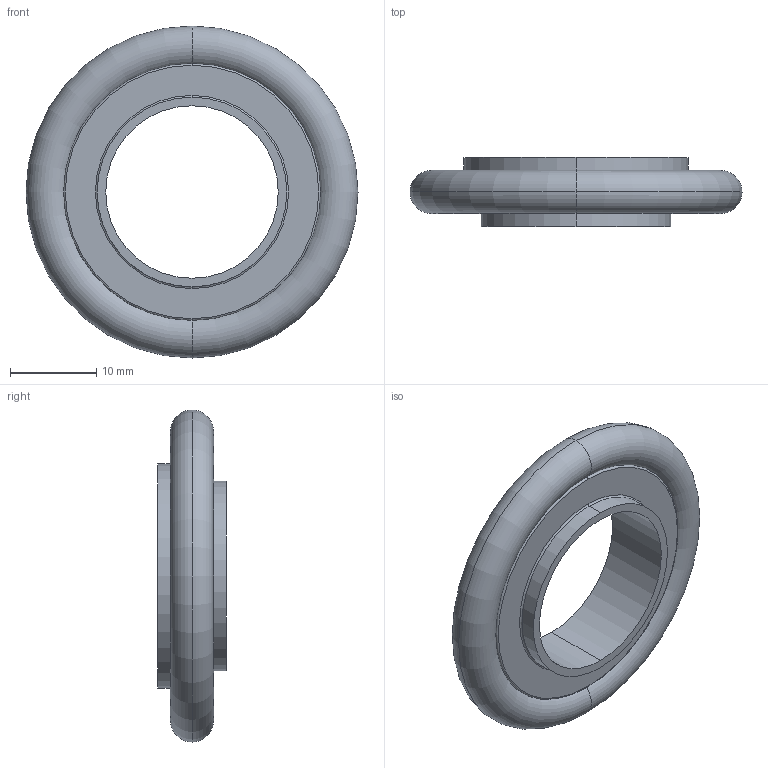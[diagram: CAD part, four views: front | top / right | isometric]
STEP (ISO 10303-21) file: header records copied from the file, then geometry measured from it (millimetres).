
FILE_DESCRIPTION (( 'STEP AP214' ), '1' );
FILE_NAME ('W3RZ25.STEP', '2019-11-15T07:11:56', ( '' ), ( '' ), 'SwSTEP 2.0', 'SolidWorks 2018', '' );
FILE_SCHEMA (( 'AUTOMOTIVE_DESIGN' ));
Length unit declared in the file: millimetre
Products named in the file (3): W3RZ25; O-Ring_28,5
Assembly tree (2 placements, depth 2):
  W3RZ25
    W3RZ25
    O-Ring_28,5
Bounding box: 38.5 x 8 x 38.5 mm (x, y, z)
Volume: 4002.3 mm3; surface area: 3585.4 mm2
Topology: 2 solids, 2 shells, 26 faces, 52 edges, 30 vertices
Faces by surface type: torus 16, cylinder 6, plane 4
Entity records: 808 total; most frequent: DIRECTION 160, CARTESIAN_POINT 113, ORIENTED_EDGE 104, AXIS2_PLACEMENT_3D 77, EDGE_CURVE 52, CIRCLE 46, VERTEX_POINT 30, EDGE_LOOP 30
